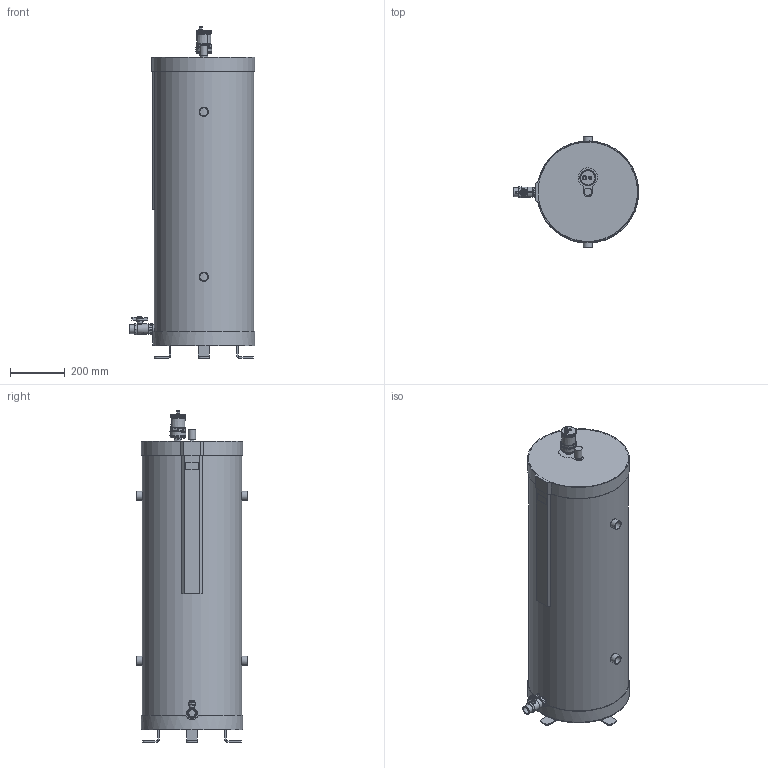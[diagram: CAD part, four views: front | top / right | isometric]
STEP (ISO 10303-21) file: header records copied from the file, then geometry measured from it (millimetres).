
FILE_DESCRIPTION(('FreeCAD Model'),'2;1');
FILE_NAME('Open CASCADE Shape Model','2023-05-15T15:35:37',(''),(''), 'Open CASCADE STEP processor 7.6','FreeCAD','Unknown');
FILE_SCHEMA(('AUTOMOTIVE_DESIGN { 1 0 10303 214 1 1 1 1 }'));
Length unit declared in the file: millimetre
Products named in the file (1): HWR100
Bounding box: 456 x 406 x 1208.05 mm (x, y, z)
Volume: 108891321.4 mm3; surface area: 2189387.1 mm2
Topology: 16 solids, 16 shells, 1305 faces, 3441 edges, 2166 vertices
Faces by surface type: cylinder 588, plane 435, bspline 117, cone 88, torus 56, sphere 21
Full cylindrical faces by diameter (mm): 6.647 x1, 8 x1, 12 x1, 15 x1, 17 x2, 25 x1, 27 x1, 30 x6, 33 x6, 37.5 x1, 272 x1, 362 x1, 366 x1, 370 x2
Entity records: 142103 total; most frequent: CARTESIAN_POINT 72908, DIRECTION 9199, ORIENTED_EDGE 6842, PCURVE 6842, DEFINITIONAL_REPRESENTATION 6842, LINE 5007, VECTOR 5007, B_SPLINE_CURVE_WITH_KNOTS 4154
